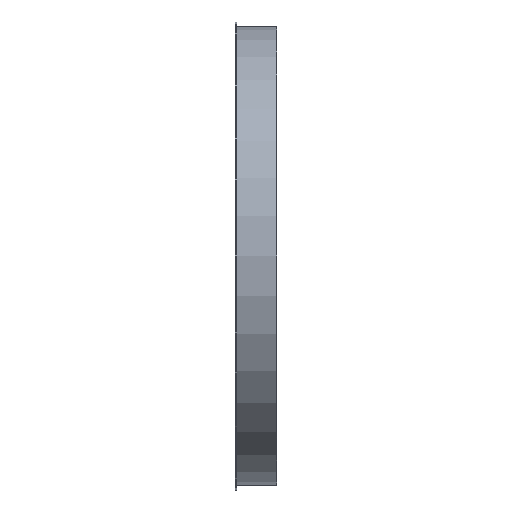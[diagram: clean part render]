
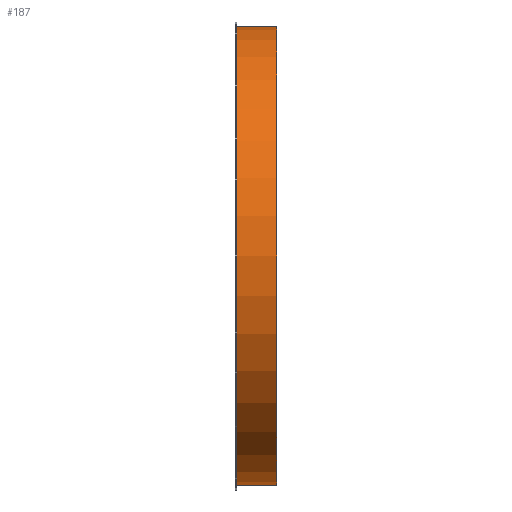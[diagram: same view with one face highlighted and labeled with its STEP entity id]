
A CAD part, front view. The second image highlights one B-rep face of the part: STEP entity #187.
In plain terms, the highlighted cylindrical face has radius 301 mm (diameter 602 mm), a full revolution.
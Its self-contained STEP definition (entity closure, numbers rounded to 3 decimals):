
#112=CARTESIAN_POINT('',(-15.,0.,0.0));
#113=VERTEX_POINT('',#112);
#114=CARTESIAN_POINT('',(-15.,301.0,0.0));
#115=DIRECTION('',(-1.0,0.0,0.0));
#116=DIRECTION('',(0.0,-1.0,0.0));
#117=AXIS2_PLACEMENT_3D('',#114,#115,#116);
#118=CIRCLE('',#117,301.0);
#119=EDGE_CURVE('',#113,#113,#118,.T.);
#161=CARTESIAN_POINT('',(38.0,0.,0.0));
#162=VERTEX_POINT('',#161);
#163=CARTESIAN_POINT('',(38.0,301.0,0.0));
#164=DIRECTION('',(-1.0,0.0,0.0));
#165=DIRECTION('',(0.0,-1.0,0.0));
#166=AXIS2_PLACEMENT_3D('',#163,#164,#165);
#167=CIRCLE('',#166,301.0);
#168=EDGE_CURVE('',#162,#162,#167,.T.);
#176=CARTESIAN_POINT('',(11.5,301.0,0.0));
#177=DIRECTION('',(-1.0,0.0,0.0));
#178=DIRECTION('',(0.0,-1.0,0.0));
#179=AXIS2_PLACEMENT_3D('',#176,#177,#178);
#180=CYLINDRICAL_SURFACE('',#179,301.0);
#181=ORIENTED_EDGE('',*,*,#119,.F.);
#182=EDGE_LOOP('',(#181));
#183=FACE_OUTER_BOUND('',#182,.T.);
#184=ORIENTED_EDGE('',*,*,#168,.T.);
#185=EDGE_LOOP('',(#184));
#186=FACE_BOUND('',#185,.T.);
#187=ADVANCED_FACE('',(#183,#186),#180,.T.);
